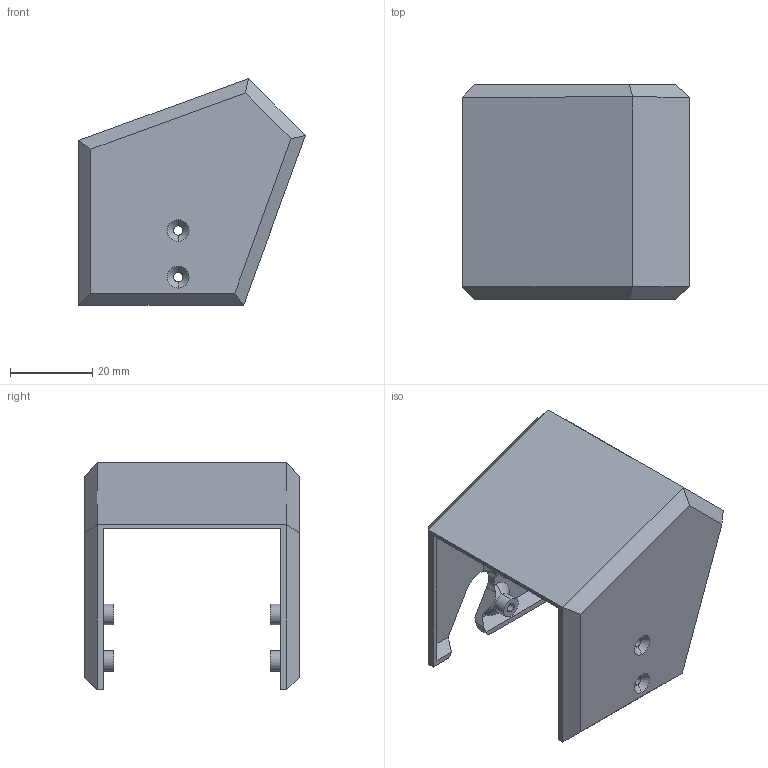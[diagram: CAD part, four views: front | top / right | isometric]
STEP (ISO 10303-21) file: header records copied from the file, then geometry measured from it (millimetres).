
FILE_DESCRIPTION((''),'2;1');
FILE_NAME('OP3_LEFT_SHOULDER_CASE_VER1','2017-07-24T',('kimdolyang'),(''),'PRO/ENGINEER BY PARAMETRIC TECHNOLOGY CORPORATION, 2013410','PRO/ENGINEER BY PARAMETRIC TECHNOLOGY CORPORATION, 2013410','');
FILE_SCHEMA(('CONFIG_CONTROL_DESIGN'));
Length unit declared in the file: millimetre
Products named in the file (1): OP3_LEFT_SHOULDER_CASE_VER1
Bounding box: 55 x 52 x 55 mm (x, y, z)
Volume: 15255.8 mm3; surface area: 16027.4 mm2
Topology: 1 solids, 1 shells, 83 faces, 212 edges, 132 vertices
Faces by surface type: plane 48, cylinder 19, cone 16
Entity records: 2568 total; most frequent: CARTESIAN_POINT 484, ORIENTED_EDGE 424, DIRECTION 423, EDGE_CURVE 212, VECTOR 147, LINE 147, AXIS2_PLACEMENT_3D 138, VERTEX_POINT 132
